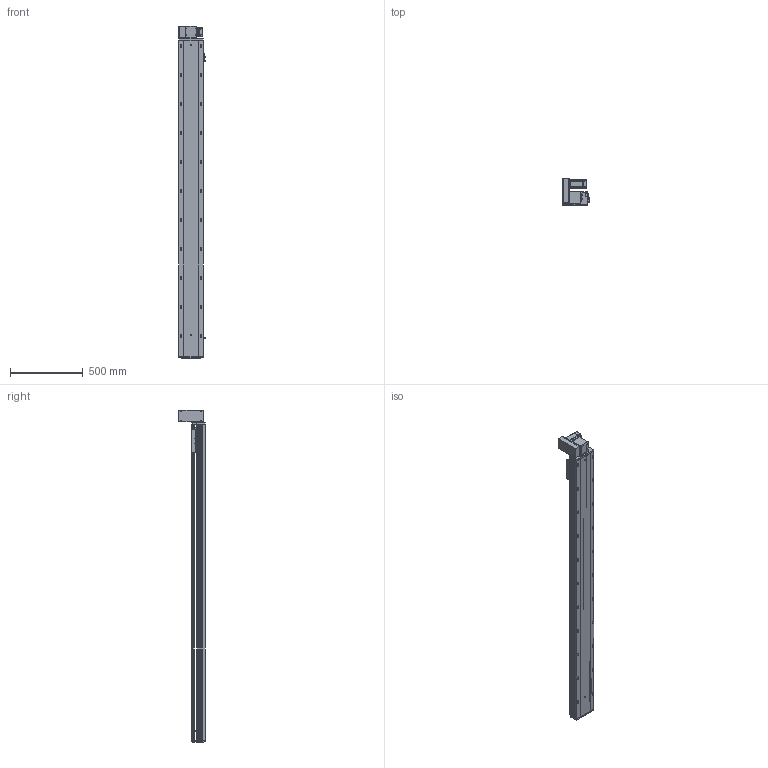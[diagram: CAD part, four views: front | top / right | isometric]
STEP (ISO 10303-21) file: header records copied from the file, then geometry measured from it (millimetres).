
FILE_DESCRIPTION (( 'STEP AP203' ), '1' );
FILE_NAME ('RY170-T-300-UL-P400W.SLDASM_1900.step', '2021-03-02T02:14:12', ( '盈信电脑' ), ( '东莞市道滘镇水果街19号' ), 'SwSTEP 2.0', 'SolidWorks 2012', '' );
FILE_SCHEMA (( 'CONFIG_CONTROL_DESIGN' ));
Products named in the file (18): RY170肮祭湍臏賑輸; RY170-T-300肮祭謫倰第菁釱-DL_1900; RY170-T蹟翐M4; RY170-T-300-UL-P400W.SLDASM_1900; 15; RY170同步轮电机安装板(400W); RY170肮祭謫萇儂欶; RY120-T主同步轮轴承压盖; 滅袉蝶18-10; RY170-T肮祭湍揤踡輸1; RY170-T肮祭謫裔啣; RY170翋肮祭謫釱; RY170-T肮祭湍揤踡輸2; RY170綴裔啣; RY170外置感应片(200共用）; RY170肮祭謫ヶ裔啣; 覜茼ん672; RY170-T-300肮祭謫倰第裔啣-DL_1900
Assembly tree (20 placements, depth 2):
  RY170-T-300-UL-P400W.SLDASM_1900
    RY170-T-300肮祭謫倰第菁釱-DL_1900
    RY170肮祭湍臏賑輸
    RY170-T-300肮祭謫倰第裔啣-DL_1900
    RY170綴裔啣
    覜茼ん672  x3
    RY170外置感应片(200共用）
    RY170肮祭謫ヶ裔啣
    RY170翋肮祭謫釱
    RY170-T肮祭湍揤踡輸1
    RY170-T肮祭湍揤踡輸2
    RY170-T肮祭謫裔啣
    滅袉蝶18-10  x2
    RY120-T主同步轮轴承压盖
    RY170肮祭謫萇儂欶
    RY170同步轮电机安装板(400W)
    RY170-T蹟翐M4
    15
Bounding box: 183.7 x 184 x 2288 mm (x, y, z)
Volume: 10633171.6 mm3; surface area: 3650764.9 mm2
Topology: 20 solids, 20 shells, 2797 faces, 7858 edges, 4997 vertices
Faces by surface type: cylinder 1314, plane 1153, cone 300, bspline 30
Entity records: 90096 total; most frequent: CARTESIAN_POINT 20730, ORIENTED_EDGE 14232, DIRECTION 13902, EDGE_CURVE 7116, AXIS2_PLACEMENT_3D 4931, VERTEX_POINT 4665, VECTOR 4040, LINE 4040
